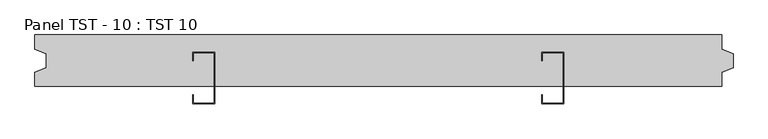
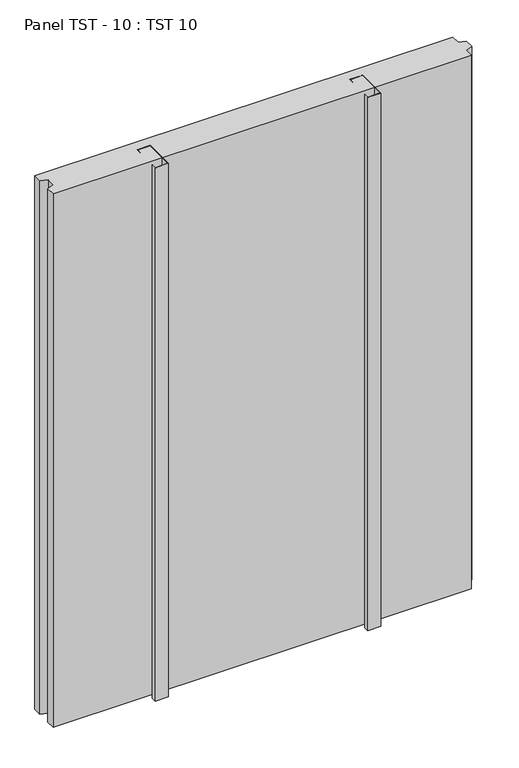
"""IFC4 building model written with IfcOpenShell, lengths in millimetres: plate geometry, Panel TST - 10 : TST 10."""

from ifc_helpers import new_model, si_unit, origin, origin_with_axes, place, context, project, spatial, polyline, outline, extrude, source, transform, mapped, element, save


def panel_tst_10_tst_10_80ced89f(model_context):
    return source(origin(), model_context, "Body", "SweptSolid", [
        extrude(outline(polyline([(-324.0000002, 15.0), (-286.0000002, 15.0), (-286.0000002, -75.0), (-324.0000002, -75.0), (-324.0000002, -60.0), (-323.1500002, -60.0), (-323.1500002, -74.15), (-286.8500002, -74.15), (-286.8500002, 14.15), (-323.1500002, 14.15), (-323.1500002, 0.0), (-324.0000002, 0.0), (-324.0000002, 15.0)])), origin_with_axes(), (0.0, 0.0, 1.0), 1618.8021535),
        extrude(outline(polyline([(286.0000002, 15.0), (324.0000002, 15.0), (324.0000002, -75.0), (286.0000002, -75.0), (286.0000002, -60.0), (286.8500002, -60.0), (286.8500002, -74.15), (323.1500002, -74.15), (323.1500002, 14.15), (286.8500002, 14.15), (286.8500002, 0.0), (286.0000002, 0.0), (286.0000002, 15.0)])), origin_with_axes(), (0.0, 0.0, 1.0), 1618.8021535),
        extrude(outline(polyline([(-600.0000002, 45.0), (600.0000002, 45.0), (600.0000002, 20.0010038), (620.0000002, 12.5), (620.0000002, -12.5), (600.0000002, -20.0010038), (600.0000002, -45.0), (-600.0000002, -45.0), (-600.0000002, -20.0010038), (-580.0000002, -12.5), (-580.0000002, 12.5), (-600.0000002, 20.0010038), (-600.0000002, 45.0)])), origin_with_axes(), (0.0, 0.0, 1.0), 1618.8021535),
    ])


if __name__ == "__main__":
    model = new_model("IFC4")
    model_context = context("Model", 3, world=origin())
    ifc_project = project(units=[si_unit("LENGTHUNIT", "METRE", prefix="MILLI")], contexts=[model_context])
    site = spatial("IfcSite", under=ifc_project)
    building = spatial("IfcBuilding", under=site)
    placement = place(None, origin())
    panel_tst_10_tst_10_shape = panel_tst_10_tst_10_80ced89f(model_context)
    element("IfcPlate", 1, ObjectType="Panel TST - 10 : TST 10", at=placement, inside=building, context=model_context, shape_type="MappedRepresentation", body=[
        mapped(panel_tst_10_tst_10_shape, transform((0.0, 0.0, 0.0), x_axis=(1.0, 0.0, 0.0), y_axis=(0.0, 1.0, 0.0), z_axis=(0.0, 0.0, 1.0))),
    ])
    save(model, "model.ifc")
